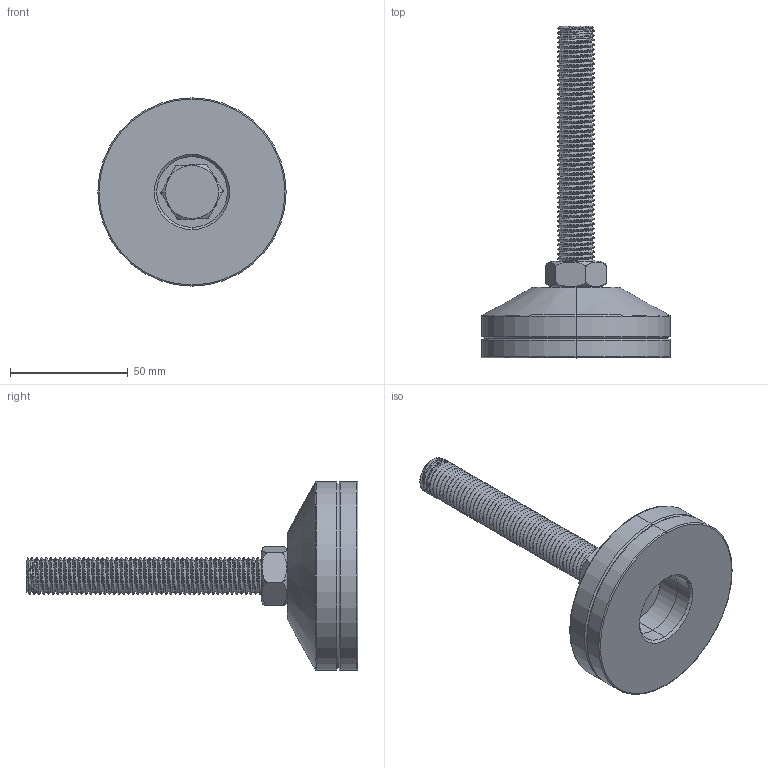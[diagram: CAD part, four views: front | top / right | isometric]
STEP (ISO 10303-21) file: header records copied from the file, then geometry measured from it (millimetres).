
FILE_DESCRIPTION (( 'STEP AP203' ), '1' );
FILE_NAME ('CE-UAF-TPU-D80-M16-100褐戚.STEP', '2016-11-05T03:54:32', ( '' ), ( '' ), 'SwSTEP 2.0', 'SolidWorks 2013', '' );
FILE_SCHEMA (( 'CONFIG_CONTROL_DESIGN' ));
Length unit declared in the file: millimetre
Products named in the file (1): CE-UAF-TPU-D80-M16-100褐戚
Bounding box: 80 x 141 x 80 mm (x, y, z)
Surface area: 36829.2 mm2 (no closed solid volume)
Topology: 0 solids, 5 shells, 175 faces, 509 edges, 340 vertices
Faces by surface type: cylinder 136, plane 13, bspline 12, torus 8, cone 6
Entity records: 11673 total; most frequent: CARTESIAN_POINT 7844, ORIENTED_EDGE 977, DIRECTION 596, EDGE_CURVE 509, VERTEX_POINT 340, AXIS2_PLACEMENT_3D 223, EDGE_LOOP 180, ADVANCED_FACE 175
